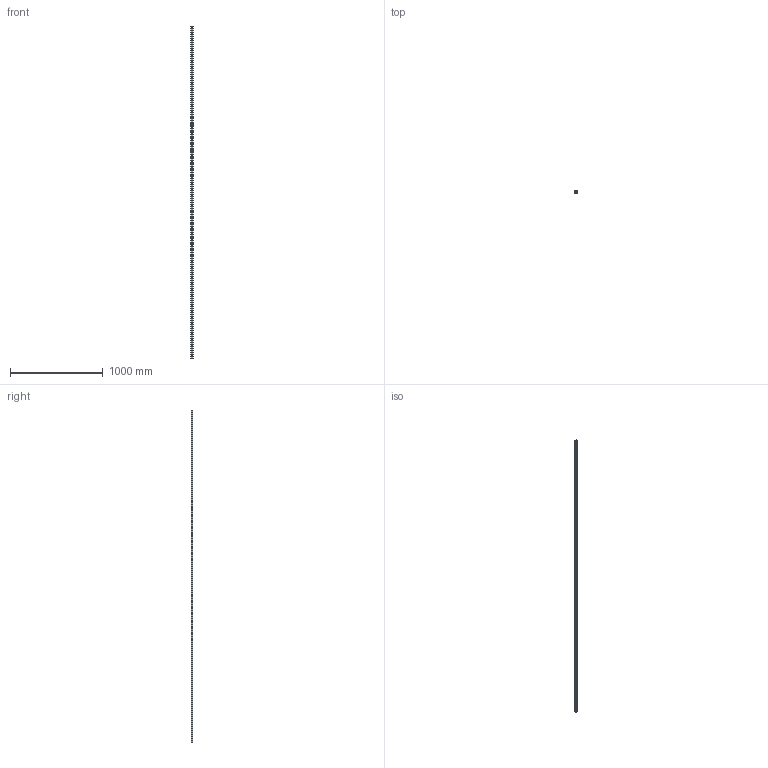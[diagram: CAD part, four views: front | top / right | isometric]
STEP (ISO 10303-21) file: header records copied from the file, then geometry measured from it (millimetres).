
FILE_DESCRIPTION (( 'STEP AP203' ), '1' );
FILE_NAME ('L1016.BL25-3580.step', '2019-06-12T12:15:49', ( '' ), ( '' ), 'SwSTEP 2.0', 'SolidWorks 2017', '' );
FILE_SCHEMA (( 'CONFIG_CONTROL_DESIGN' ));
Length unit declared in the file: millimetre
Products named in the file (1): L1016.BL25-3580
Bounding box: 23 x 19.2 x 3580 mm (x, y, z)
Volume: 1319362.1 mm3; surface area: 338533.2 mm2
Topology: 1 solids, 1 shells, 326 faces, 792 edges, 528 vertices
Faces by surface type: cylinder 244, plane 82
Entity records: 10141 total; most frequent: DIRECTION 1934, CARTESIAN_POINT 1647, ORIENTED_EDGE 1584, AXIS2_PLACEMENT_3D 815, EDGE_CURVE 792, VERTEX_POINT 528, EDGE_LOOP 506, CIRCLE 488
